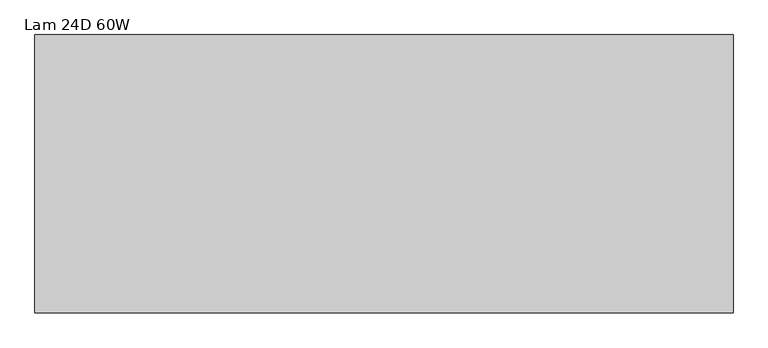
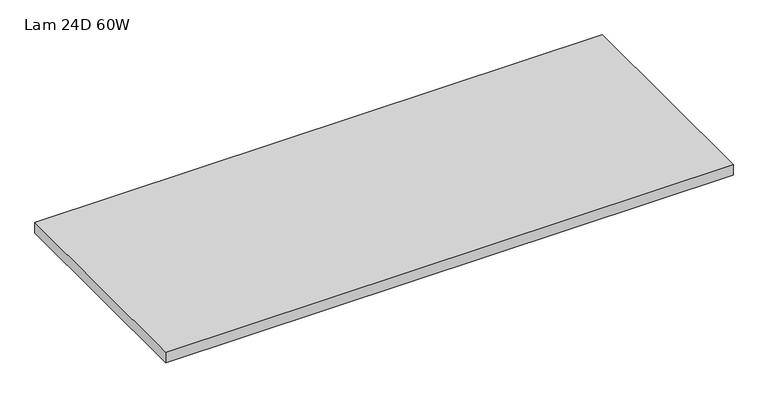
"""IFC4 building model written with IfcOpenShell, lengths in millimetres: furniture geometry, HermanMiller_CoStruc_C4700_RectangularWorkTableSurface : Lam 24D 60W."""

from ifc_helpers import new_model, si_unit, frame, origin, place, context, project, spatial, polyline, outline, extrude, source, transform, mapped, element, save


def lam_24d_60w_0fc88a9e(model_context):
    return source(origin(), model_context, "Body", "SweptSolid", [
        extrude(outline(polyline([(1371.5999999, -3.0467299), (1371.5999999, -609.6), (-149.2249999, -609.6), (-149.2249999, -3.0467299), (1371.5999999, -3.0467299)])), frame((0.0, 0.0, 852.678), z_axis=(0.0, 0.0, 1.0), x_axis=(1.0, 0.0, 0.0)), (0.0, 0.0, 1.0), 29.972),
    ])


if __name__ == "__main__":
    model = new_model("IFC4")
    model_context = context("Model", 3, world=origin())
    ifc_project = project(units=[si_unit("LENGTHUNIT", "METRE", prefix="MILLI")], contexts=[model_context])
    site = spatial("IfcSite", under=ifc_project)
    building = spatial("IfcBuilding", under=site)
    placement = place(None, origin())
    lam_24d_60w_shape = lam_24d_60w_0fc88a9e(model_context)
    element("IfcFurniture", 1, ObjectType="HermanMiller_CoStruc_C4700_RectangularWorkTableSurface : Lam 24D 60W", at=placement, inside=building, context=model_context, shape_type="MappedRepresentation", body=[
        mapped(lam_24d_60w_shape, transform((0.0, 0.0, 0.0), x_axis=(1.0, 0.0, 0.0), y_axis=(0.0, 1.0, 0.0), z_axis=(0.0, 0.0, 1.0))),
    ])
    save(model, "model.ifc")
